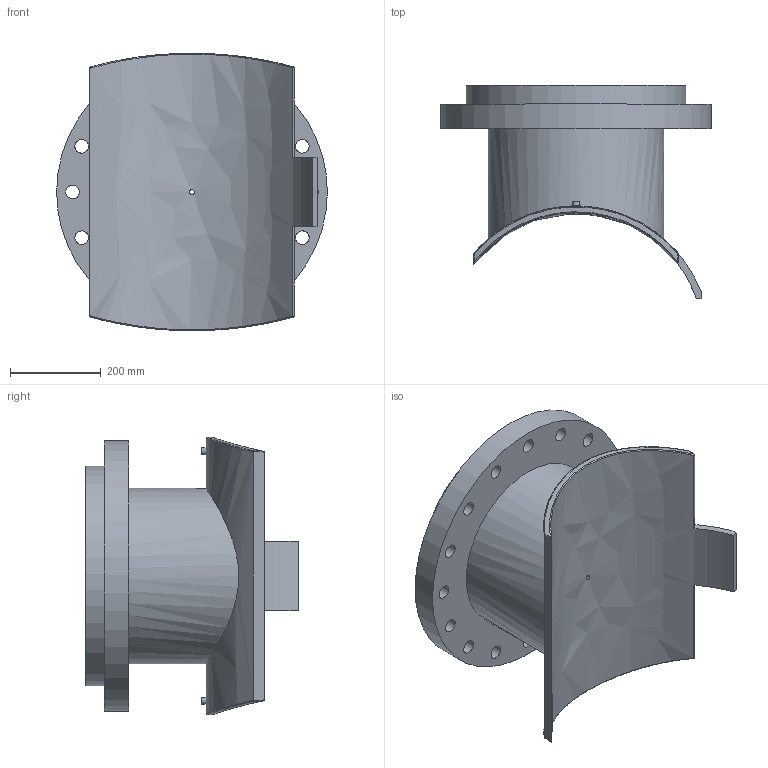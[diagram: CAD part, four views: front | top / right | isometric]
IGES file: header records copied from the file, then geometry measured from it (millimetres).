
Global section: file name: 495903560400T; native system: Autodesk Inventor 2019; preprocessor: unknown; author: KIM; date: 20240403.210557; units: millimetre
Bounding box: 594.99 x 468.23 x 609.96 mm (x, y, z)
Volume: 25243872.4 mm3; surface area: 1780599.2 mm2
Topology: 1 solids, 1 shells, 66 faces, 175 edges, 134 vertices
Faces by surface type: bspline 66
